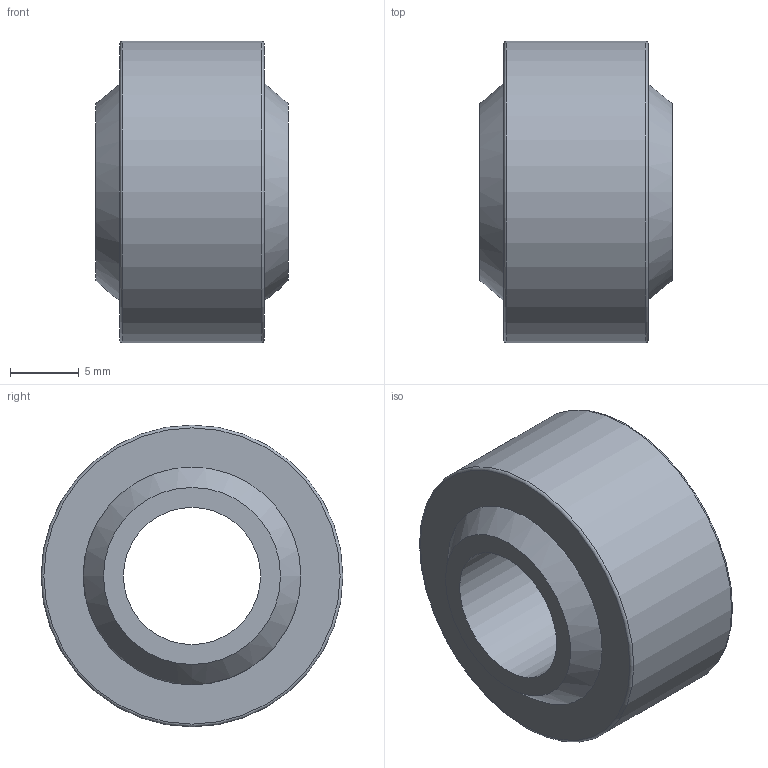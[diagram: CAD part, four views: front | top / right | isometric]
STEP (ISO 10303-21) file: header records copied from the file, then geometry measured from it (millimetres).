
FILE_DESCRIPTION( ( 'STEP AP203' ), '1' );
FILE_NAME( 'C:/Temp/Ganter_Step_05_03_2020/data/3_6/gn_648_8/gn_648_8_w/Ball joint GN 648.8-10-22-W.stp', '2020-03-12T14:14:29', ( 'License CC BY-ND 4.0' ), ( 'CADENAS' ), ' ', 'PARTsolutions', ' ' );
FILE_SCHEMA( ( 'CONFIG_CONTROL_DESIGN' ) );
Length unit declared in the file: millimetre
Products named in the file (3): Ball joint GN 648.8-10-22-W; _Ball joint GN 648.8-10-22-W-2; _Ball joint GN 648.8-10-22-W-1
Assembly tree (2 placements, depth 2):
  Ball joint GN 648.8-10-22-W
    _Ball joint GN 648.8-10-22-W-2
    _Ball joint GN 648.8-10-22-W-1
Bounding box: 14 x 22 x 22 mm (x, y, z)
Volume: 3471.9 mm3; surface area: 3087.6 mm2
Topology: 2 solids, 2 shells, 10 faces, 16 edges, 10 vertices
Faces by surface type: plane 4, sphere 2, torus 2, cylinder 2
Full cylindrical faces by diameter (mm): 10 x1, 22 x1
Entity records: 320 total; most frequent: DIRECTION 46, CARTESIAN_POINT 33, AXIS2_PLACEMENT_3D 23, EDGE_LOOP 20, ORIENTED_EDGE 20, FACE_OUTER_BOUND 16, CC_DESIGN_PERSON_AND_ORGANIZATION_ASSIGNMENT 13, ADVANCED_FACE 10
